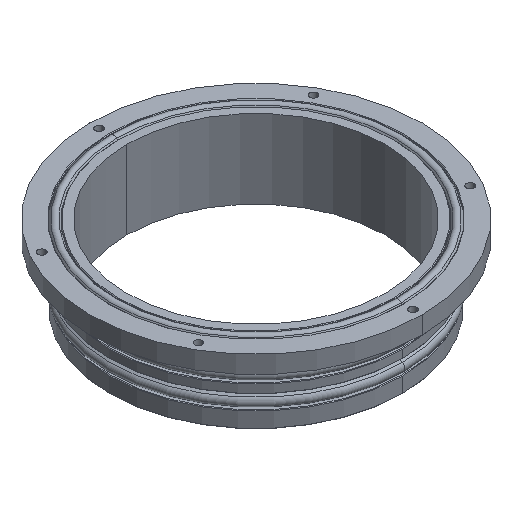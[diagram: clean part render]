
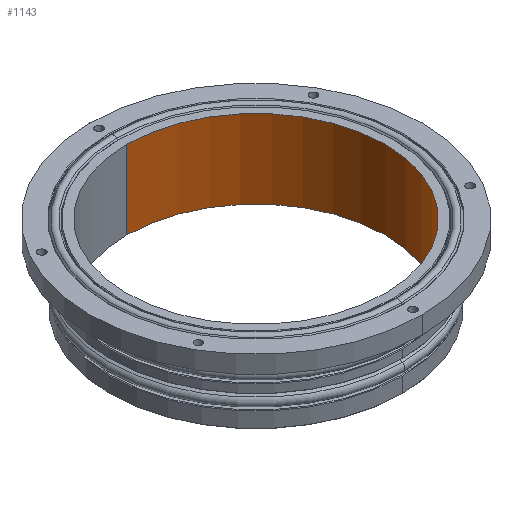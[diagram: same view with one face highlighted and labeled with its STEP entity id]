
A CAD part, isometric view. The second image highlights one B-rep face of the part: STEP entity #1143.
In plain terms, the highlighted cylindrical face has radius 44.419 mm (diameter 88.838 mm), a partial arc.
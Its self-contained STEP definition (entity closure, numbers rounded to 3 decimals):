
#103 = CIRCLE ( 'NONE', #1870, 44.419 ) ;
#106 = CIRCLE ( 'NONE', #1872, 44.419 ) ;
#254 = EDGE_CURVE ( 'NONE', #1409, #1418, #103, .T. ) ;
#256 = EDGE_CURVE ( 'NONE', #1417, #1414, #106, .T. ) ;
#427 = LINE ( 'NONE', #529, #429 ) ;
#429 = VECTOR ( 'NONE', #525, 1000. ) ;
#454 = LINE ( 'NONE', #574, #1655 ) ;
#525 = DIRECTION ( 'NONE',  ( 0., 0., -1. ) ) ;
#529 = CARTESIAN_POINT ( 'NONE',  ( 0., 44.419, 0. ) ) ;
#574 = CARTESIAN_POINT ( 'NONE',  ( 0., -44.419, 0. ) ) ;
#575 = DIRECTION ( 'NONE',  ( 0., 0., -1. ) ) ;
#596 = CARTESIAN_POINT ( 'NONE',  ( 0., 44.419, 0. ) ) ;
#601 = CARTESIAN_POINT ( 'NONE',  ( 0., -44.419, 27. ) ) ;
#604 = CARTESIAN_POINT ( 'NONE',  ( 0., 44.419, 27. ) ) ;
#605 = CARTESIAN_POINT ( 'NONE',  ( 0., -44.419, 0. ) ) ;
#833 = DIRECTION ( 'NONE',  ( 0., 1., 0. ) ) ;
#835 = DIRECTION ( 'NONE',  ( 0., 0., -1. ) ) ;
#837 = CARTESIAN_POINT ( 'NONE',  ( 0., 0., 0. ) ) ;
#886 = AXIS2_PLACEMENT_3D ( 'NONE', #837, #835, #833 ) ;
#1143 = ADVANCED_FACE ( 'NONE', ( #1525 ), #1529, .F. ) ;
#1241 = ORIENTED_EDGE ( 'NONE', *, *, #1322, .F. ) ;
#1242 = ORIENTED_EDGE ( 'NONE', *, *, #256, .F. ) ;
#1243 = ORIENTED_EDGE ( 'NONE', *, *, #1303, .T. ) ;
#1244 = ORIENTED_EDGE ( 'NONE', *, *, #254, .T. ) ;
#1303 = EDGE_CURVE ( 'NONE', #1417, #1409, #427, .T. ) ;
#1322 = EDGE_CURVE ( 'NONE', #1414, #1418, #454, .T. ) ;
#1409 = VERTEX_POINT ( 'NONE', #596 ) ;
#1414 = VERTEX_POINT ( 'NONE', #601 ) ;
#1417 = VERTEX_POINT ( 'NONE', #604 ) ;
#1418 = VERTEX_POINT ( 'NONE', #605 ) ;
#1525 = FACE_OUTER_BOUND ( 'NONE', #1730, .T. ) ;
#1529 = CYLINDRICAL_SURFACE ( 'NONE', #886, 44.419 ) ;
#1655 = VECTOR ( 'NONE', #575, 1000. ) ;
#1681 = CARTESIAN_POINT ( 'NONE',  ( 0., 0., 0. ) ) ;
#1682 = DIRECTION ( 'NONE',  ( 0., 0., -1. ) ) ;
#1683 = DIRECTION ( 'NONE',  ( 0., 1., 0. ) ) ;
#1687 = CARTESIAN_POINT ( 'NONE',  ( 0., 0., 27. ) ) ;
#1688 = DIRECTION ( 'NONE',  ( 0., 0., -1. ) ) ;
#1689 = DIRECTION ( 'NONE',  ( 0., 1., 0. ) ) ;
#1730 = EDGE_LOOP ( 'NONE', ( #1241, #1242, #1243, #1244 ) ) ;
#1870 = AXIS2_PLACEMENT_3D ( 'NONE', #1681, #1682, #1683 ) ;
#1872 = AXIS2_PLACEMENT_3D ( 'NONE', #1687, #1688, #1689 ) ;
